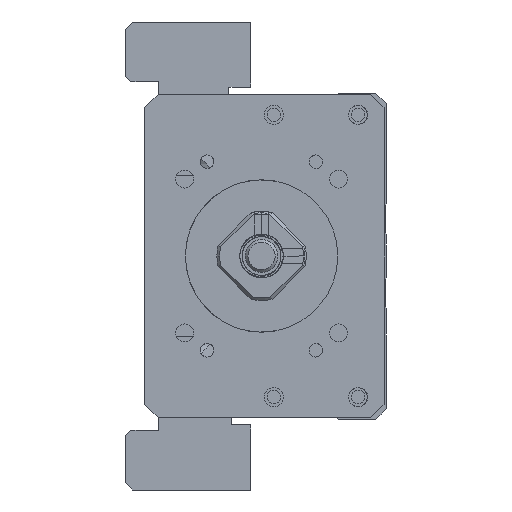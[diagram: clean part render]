
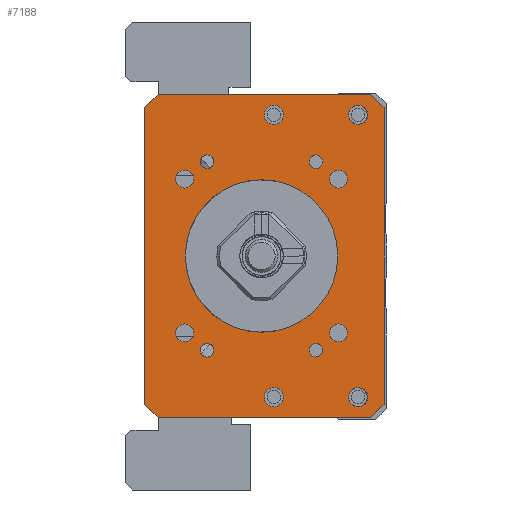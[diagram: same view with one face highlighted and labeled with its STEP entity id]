
A CAD part, left-side view. The second image highlights one B-rep face of the part: STEP entity #7188.
In plain terms, the highlighted planar face has unit normal (-1, 0, 0).
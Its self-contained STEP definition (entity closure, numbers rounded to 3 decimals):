
#4799=LINE('',#23304,#5718);
#4801=LINE('',#23328,#5720);
#4802=LINE('',#23330,#5721);
#4803=LINE('',#23332,#5722);
#4804=LINE('',#23334,#5723);
#4805=LINE('',#23336,#5724);
#4806=LINE('',#23338,#5725);
#4807=LINE('',#23340,#5726);
#5718=VECTOR('',#19116,1.);
#5720=VECTOR('',#19140,1.);
#5721=VECTOR('',#19141,1.);
#5722=VECTOR('',#19142,1.);
#5723=VECTOR('',#19143,1.);
#5724=VECTOR('',#19144,1.);
#5725=VECTOR('',#19145,1.);
#5726=VECTOR('',#19146,1.);
#6527=FACE_BOUND('',#9023,.T.);
#6528=FACE_BOUND('',#9024,.T.);
#6529=FACE_BOUND('',#9025,.T.);
#6530=FACE_BOUND('',#9026,.T.);
#6531=FACE_BOUND('',#9027,.T.);
#6532=FACE_BOUND('',#9028,.T.);
#6533=FACE_BOUND('',#9029,.T.);
#6534=FACE_BOUND('',#9030,.T.);
#6535=FACE_BOUND('',#9031,.T.);
#6536=FACE_BOUND('',#9032,.T.);
#6537=FACE_BOUND('',#9033,.T.);
#6538=FACE_BOUND('',#9034,.T.);
#6539=FACE_BOUND('',#9035,.T.);
#6540=FACE_BOUND('',#9036,.T.);
#7188=ADVANCED_FACE('',(#6527,#6528,#6529,#6530,#6531,#6532,#6533,#6534,
#6535,#6536,#6537,#6538,#6539,#6540),#7715,.F.);
#7715=PLANE('',#16386);
#9023=EDGE_LOOP('',(#11529));
#9024=EDGE_LOOP('',(#11530));
#9025=EDGE_LOOP('',(#11531));
#9026=EDGE_LOOP('',(#11532));
#9027=EDGE_LOOP('',(#11533));
#9028=EDGE_LOOP('',(#11534));
#9029=EDGE_LOOP('',(#11535));
#9030=EDGE_LOOP('',(#11536));
#9031=EDGE_LOOP('',(#11537));
#9032=EDGE_LOOP('',(#11538,#11539,#11540,#11541,#11542,#11543,#11544,#11545));
#9033=EDGE_LOOP('',(#11546));
#9034=EDGE_LOOP('',(#11547));
#9035=EDGE_LOOP('',(#11548));
#9036=EDGE_LOOP('',(#11549));
#11529=ORIENTED_EDGE('',*,*,#14656,.F.);
#11530=ORIENTED_EDGE('',*,*,#14657,.F.);
#11531=ORIENTED_EDGE('',*,*,#14658,.F.);
#11532=ORIENTED_EDGE('',*,*,#14659,.F.);
#11533=ORIENTED_EDGE('',*,*,#14660,.F.);
#11534=ORIENTED_EDGE('',*,*,#14661,.T.);
#11535=ORIENTED_EDGE('',*,*,#14662,.F.);
#11536=ORIENTED_EDGE('',*,*,#14663,.F.);
#11537=ORIENTED_EDGE('',*,*,#14664,.F.);
#11538=ORIENTED_EDGE('',*,*,#14653,.T.);
#11539=ORIENTED_EDGE('',*,*,#14665,.T.);
#11540=ORIENTED_EDGE('',*,*,#14666,.F.);
#11541=ORIENTED_EDGE('',*,*,#14667,.T.);
#11542=ORIENTED_EDGE('',*,*,#14668,.F.);
#11543=ORIENTED_EDGE('',*,*,#14669,.T.);
#11544=ORIENTED_EDGE('',*,*,#14670,.T.);
#11545=ORIENTED_EDGE('',*,*,#14671,.T.);
#11546=ORIENTED_EDGE('',*,*,#14672,.F.);
#11547=ORIENTED_EDGE('',*,*,#14673,.F.);
#11548=ORIENTED_EDGE('',*,*,#14674,.F.);
#11549=ORIENTED_EDGE('',*,*,#14633,.F.);
#13213=VERTEX_POINT('',#23243);
#13233=VERTEX_POINT('',#23303);
#13234=VERTEX_POINT('',#23305);
#13236=VERTEX_POINT('',#23311);
#13237=VERTEX_POINT('',#23313);
#13238=VERTEX_POINT('',#23315);
#13239=VERTEX_POINT('',#23317);
#13240=VERTEX_POINT('',#23319);
#13241=VERTEX_POINT('',#23321);
#13242=VERTEX_POINT('',#23323);
#13243=VERTEX_POINT('',#23325);
#13244=VERTEX_POINT('',#23327);
#13245=VERTEX_POINT('',#23329);
#13246=VERTEX_POINT('',#23331);
#13247=VERTEX_POINT('',#23333);
#13248=VERTEX_POINT('',#23335);
#13249=VERTEX_POINT('',#23337);
#13250=VERTEX_POINT('',#23339);
#13251=VERTEX_POINT('',#23342);
#13252=VERTEX_POINT('',#23344);
#13253=VERTEX_POINT('',#23346);
#14633=EDGE_CURVE('',#13213,#13213,#15385,.T.);
#14653=EDGE_CURVE('',#13234,#13233,#4799,.T.);
#14656=EDGE_CURVE('',#13236,#13236,#15394,.T.);
#14657=EDGE_CURVE('',#13237,#13237,#15395,.T.);
#14658=EDGE_CURVE('',#13238,#13238,#15396,.T.);
#14659=EDGE_CURVE('',#13239,#13239,#15397,.T.);
#14660=EDGE_CURVE('',#13240,#13240,#15398,.T.);
#14661=EDGE_CURVE('',#13241,#13241,#15399,.T.);
#14662=EDGE_CURVE('',#13242,#13242,#15400,.T.);
#14663=EDGE_CURVE('',#13243,#13243,#15401,.T.);
#14664=EDGE_CURVE('',#13244,#13244,#15402,.T.);
#14665=EDGE_CURVE('',#13233,#13245,#4801,.T.);
#14666=EDGE_CURVE('',#13246,#13245,#4802,.T.);
#14667=EDGE_CURVE('',#13246,#13247,#4803,.T.);
#14668=EDGE_CURVE('',#13248,#13247,#4804,.T.);
#14669=EDGE_CURVE('',#13248,#13249,#4805,.T.);
#14670=EDGE_CURVE('',#13249,#13250,#4806,.T.);
#14671=EDGE_CURVE('',#13250,#13234,#4807,.T.);
#14672=EDGE_CURVE('',#13251,#13251,#15403,.T.);
#14673=EDGE_CURVE('',#13252,#13252,#15404,.T.);
#14674=EDGE_CURVE('',#13253,#13253,#15405,.T.);
#15385=CIRCLE('',#16363,14.);
#15394=CIRCLE('',#16374,1.65);
#15395=CIRCLE('',#16375,1.65);
#15396=CIRCLE('',#16376,1.65);
#15397=CIRCLE('',#16377,1.65);
#15398=CIRCLE('',#16378,1.25);
#15399=CIRCLE('',#16379,1.75);
#15400=CIRCLE('',#16380,1.25);
#15401=CIRCLE('',#16381,1.75);
#15402=CIRCLE('',#16382,1.25);
#15403=CIRCLE('',#16383,1.75);
#15404=CIRCLE('',#16384,1.75);
#15405=CIRCLE('',#16385,1.25);
#16363=AXIS2_PLACEMENT_3D('',#23242,#19090,#19091);
#16374=AXIS2_PLACEMENT_3D('',#23310,#19122,#19123);
#16375=AXIS2_PLACEMENT_3D('',#23312,#19124,#19125);
#16376=AXIS2_PLACEMENT_3D('',#23314,#19126,#19127);
#16377=AXIS2_PLACEMENT_3D('',#23316,#19128,#19129);
#16378=AXIS2_PLACEMENT_3D('',#23318,#19130,#19131);
#16379=AXIS2_PLACEMENT_3D('',#23320,#19132,#19133);
#16380=AXIS2_PLACEMENT_3D('',#23322,#19134,#19135);
#16381=AXIS2_PLACEMENT_3D('',#23324,#19136,#19137);
#16382=AXIS2_PLACEMENT_3D('',#23326,#19138,#19139);
#16383=AXIS2_PLACEMENT_3D('',#23341,#19147,#19148);
#16384=AXIS2_PLACEMENT_3D('',#23343,#19149,#19150);
#16385=AXIS2_PLACEMENT_3D('',#23345,#19151,#19152);
#16386=AXIS2_PLACEMENT_3D('',#23347,#19153,#19154);
#19090=DIRECTION('',(-1.,0.,0.));
#19091=DIRECTION('',(0.,1.,0.));
#19116=DIRECTION('',(0.,0.,-1.));
#19122=DIRECTION('',(-1.,0.,0.));
#19123=DIRECTION('',(0.,0.,1.));
#19124=DIRECTION('',(-1.,0.,0.));
#19125=DIRECTION('',(0.,0.,1.));
#19126=DIRECTION('',(-1.,0.,0.));
#19127=DIRECTION('',(0.,0.,1.));
#19128=DIRECTION('',(-1.,0.,0.));
#19129=DIRECTION('',(0.,0.,1.));
#19130=DIRECTION('',(-1.,0.,0.));
#19131=DIRECTION('',(0.,1.,0.));
#19132=DIRECTION('',(1.,0.,0.));
#19133=DIRECTION('',(0.,0.,1.));
#19134=DIRECTION('',(-1.,0.,0.));
#19135=DIRECTION('',(0.,1.,0.));
#19136=DIRECTION('',(-1.,0.,0.));
#19137=DIRECTION('',(0.,0.,1.));
#19138=DIRECTION('',(-1.,0.,0.));
#19139=DIRECTION('',(0.,1.,0.));
#19140=DIRECTION('',(0.,-0.707,-0.707));
#19141=DIRECTION('',(0.,1.,0.));
#19142=DIRECTION('',(0.,-0.707,0.707));
#19143=DIRECTION('',(0.,0.,-1.));
#19144=DIRECTION('',(0.,0.707,0.707));
#19145=DIRECTION('',(0.,1.,0.));
#19146=DIRECTION('',(0.,0.707,-0.707));
#19147=DIRECTION('',(-1.,0.,0.));
#19148=DIRECTION('',(0.,0.,1.));
#19149=DIRECTION('',(-1.,0.,0.));
#19150=DIRECTION('',(0.,0.,1.));
#19151=DIRECTION('',(-1.,0.,0.));
#19152=DIRECTION('',(0.,1.,0.));
#19153=DIRECTION('',(1.,0.,0.));
#19154=DIRECTION('',(0.,1.,0.));
#23242=CARTESIAN_POINT('',(-211.,0.,0.));
#23243=CARTESIAN_POINT('',(-211.,14.,0.));
#23303=CARTESIAN_POINT('',(-211.,21.499,-27.25));
#23304=CARTESIAN_POINT('',(-211.,21.499,29.75));
#23305=CARTESIAN_POINT('',(-211.,21.499,27.25));
#23310=CARTESIAN_POINT('',(-211.,14.142,14.142));
#23311=CARTESIAN_POINT('',(-211.,14.142,15.792));
#23312=CARTESIAN_POINT('',(-211.,-14.142,14.142));
#23313=CARTESIAN_POINT('',(-211.,-14.142,15.792));
#23314=CARTESIAN_POINT('',(-211.,14.142,-14.142));
#23315=CARTESIAN_POINT('',(-211.,14.142,-12.492));
#23316=CARTESIAN_POINT('',(-211.,-14.142,-14.142));
#23317=CARTESIAN_POINT('',(-211.,-14.142,-12.492));
#23318=CARTESIAN_POINT('',(-211.,-10.,-17.321));
#23319=CARTESIAN_POINT('',(-211.,-8.75,-17.321));
#23320=CARTESIAN_POINT('',(-211.,-2.25,-25.936));
#23321=CARTESIAN_POINT('',(-211.,-2.25,-24.186));
#23322=CARTESIAN_POINT('',(-211.,10.,17.321));
#23323=CARTESIAN_POINT('',(-211.,11.25,17.321));
#23324=CARTESIAN_POINT('',(-211.,-2.25,25.936));
#23325=CARTESIAN_POINT('',(-211.,-2.25,27.686));
#23326=CARTESIAN_POINT('',(-211.,10.,-17.321));
#23327=CARTESIAN_POINT('',(-211.,11.25,-17.321));
#23328=CARTESIAN_POINT('',(-211.,18.999,-29.75));
#23329=CARTESIAN_POINT('',(-211.,18.999,-29.75));
#23330=CARTESIAN_POINT('',(-211.,-22.501,-29.75));
#23331=CARTESIAN_POINT('',(-211.,-20.001,-29.75));
#23332=CARTESIAN_POINT('',(-211.,-22.501,-27.25));
#23333=CARTESIAN_POINT('',(-211.,-22.501,-27.25));
#23334=CARTESIAN_POINT('',(-211.,-22.501,29.75));
#23335=CARTESIAN_POINT('',(-211.,-22.501,27.25));
#23336=CARTESIAN_POINT('',(-211.,-22.501,27.25));
#23337=CARTESIAN_POINT('',(-211.,-20.001,29.75));
#23338=CARTESIAN_POINT('',(-211.,-22.501,29.75));
#23339=CARTESIAN_POINT('',(-211.,18.999,29.75));
#23340=CARTESIAN_POINT('',(-211.,18.999,29.75));
#23341=CARTESIAN_POINT('',(-211.,-17.75,25.936));
#23342=CARTESIAN_POINT('',(-211.,-17.75,27.686));
#23343=CARTESIAN_POINT('',(-211.,-17.75,-25.936));
#23344=CARTESIAN_POINT('',(-211.,-17.75,-24.186));
#23345=CARTESIAN_POINT('',(-211.,-10.,17.321));
#23346=CARTESIAN_POINT('',(-211.,-8.75,17.321));
#23347=CARTESIAN_POINT('',(-211.,-22.501,29.75));
